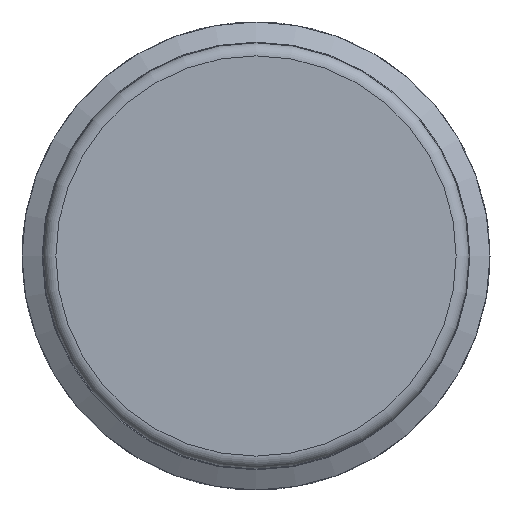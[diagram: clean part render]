
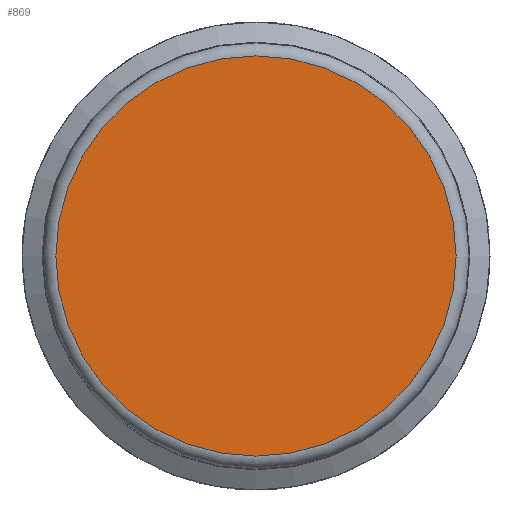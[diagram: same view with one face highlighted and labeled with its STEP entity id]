
A CAD part, left-side view. The second image highlights one B-rep face of the part: STEP entity #869.
In plain terms, the highlighted planar face has unit normal (-1, 0, 0).
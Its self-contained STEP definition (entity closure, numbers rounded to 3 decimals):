
#100=PLANE('',#950);
#113=FACE_OUTER_BOUND('',#168,.T.);
#168=EDGE_LOOP('',(#602,#603));
#289=CIRCLE('',#951,7.698);
#290=CIRCLE('',#952,7.698);
#384=VERTEX_POINT('',#1435);
#385=VERTEX_POINT('',#1436);
#468=EDGE_CURVE('',#384,#385,#289,.T.);
#469=EDGE_CURVE('',#385,#384,#290,.T.);
#602=ORIENTED_EDGE('',*,*,#468,.F.);
#603=ORIENTED_EDGE('',*,*,#469,.F.);
#869=ADVANCED_FACE('',(#113),#100,.F.);
#950=AXIS2_PLACEMENT_3D('',#1434,#1111,#1112);
#951=AXIS2_PLACEMENT_3D('',#1437,#1113,#1114);
#952=AXIS2_PLACEMENT_3D('',#1438,#1115,#1116);
#1111=DIRECTION('center_axis',(1.,0.,0.));
#1112=DIRECTION('ref_axis',(0.,0.,
1.));
#1113=DIRECTION('center_axis',(1.,0.,0.));
#1114=DIRECTION('ref_axis',(0.,0.,
1.));
#1115=DIRECTION('center_axis',(1.,0.,0.));
#1116=DIRECTION('ref_axis',(0.,0.,
1.));
#1434=CARTESIAN_POINT('Origin',(-45.648,3.082,4.127));
#1435=CARTESIAN_POINT('',(-45.648,-4.616,0.));
#1436=CARTESIAN_POINT('',(-45.648,3.082,-7.698));
#1437=CARTESIAN_POINT('Origin',(-45.648,3.082,0.));
#1438=CARTESIAN_POINT('Origin',(-45.648,3.082,0.));
